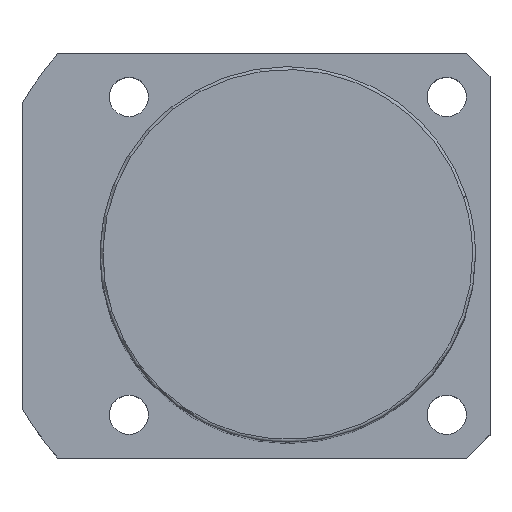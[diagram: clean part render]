
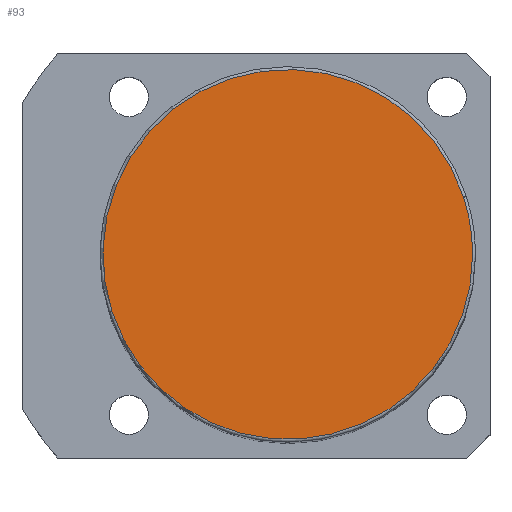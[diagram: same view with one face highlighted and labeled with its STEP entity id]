
A CAD part, top view. The second image highlights one B-rep face of the part: STEP entity #93.
In plain terms, the highlighted planar face has unit normal (0, 0, 1).
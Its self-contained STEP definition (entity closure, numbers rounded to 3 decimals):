
#16=CARTESIAN_POINT('',(30.434,9.889,156.0));
#17=VERTEX_POINT('',#16);
#45=CARTESIAN_POINT('',(-30.434,-9.889,156.0));
#46=VERTEX_POINT('',#45);
#54=CARTESIAN_POINT('',(0.0,0.0,156.0));
#55=DIRECTION('',(0.0,0.0,1.0));
#56=DIRECTION('',(1.0,0.0,0.0));
#57=AXIS2_PLACEMENT_3D('',#54,#55,#56);
#58=CIRCLE('',#57,32.0);
#59=EDGE_CURVE('no 890',#17,#46,#58,.T.);
#69=CARTESIAN_POINT('',(32.0,0.0,156.0));
#70=VERTEX_POINT('',#69);
#71=CARTESIAN_POINT('',(0.0,0.0,156.0));
#72=DIRECTION('',(0.0,0.0,1.0));
#73=DIRECTION('',(1.0,0.0,0.0));
#74=AXIS2_PLACEMENT_3D('',#71,#72,#73);
#75=CIRCLE('',#74,32.0);
#76=EDGE_CURVE('no 899',#70,#17,#75,.T.);
#77=ORIENTED_EDGE('',*,*,#76,.T.);
#78=ORIENTED_EDGE('',*,*,#59,.T.);
#79=CARTESIAN_POINT('',(0.0,0.0,156.0));
#80=DIRECTION('',(0.0,0.0,1.0));
#81=DIRECTION('',(1.0,0.0,0.0));
#82=AXIS2_PLACEMENT_3D('',#79,#80,#81);
#83=CIRCLE('',#82,32.0);
#84=EDGE_CURVE('no 905',#46,#70,#83,.T.);
#85=ORIENTED_EDGE('',*,*,#84,.T.);
#86=EDGE_LOOP('',(#77,#78,#85));
#87=FACE_OUTER_BOUND('',#86,.T.);
#88=CARTESIAN_POINT('',(0.0,0.0,156.0));
#89=DIRECTION('',(0.0,0.0,1.0));
#90=DIRECTION('',(1.0,0.0,0.0));
#91=AXIS2_PLACEMENT_3D('',#88,#89,#90);
#92=PLANE('',#91);
#93=ADVANCED_FACE('no 892',(#87),#92,.T.);
